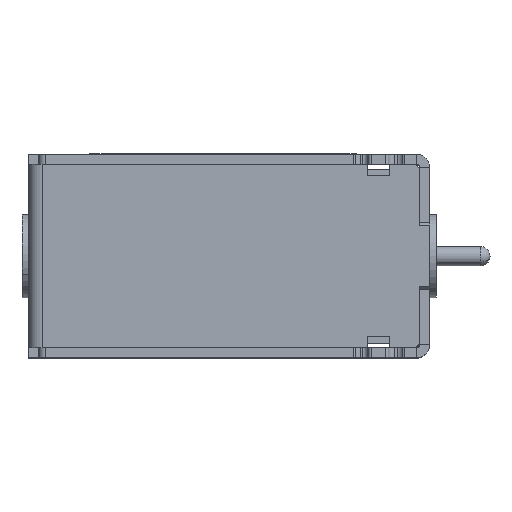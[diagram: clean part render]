
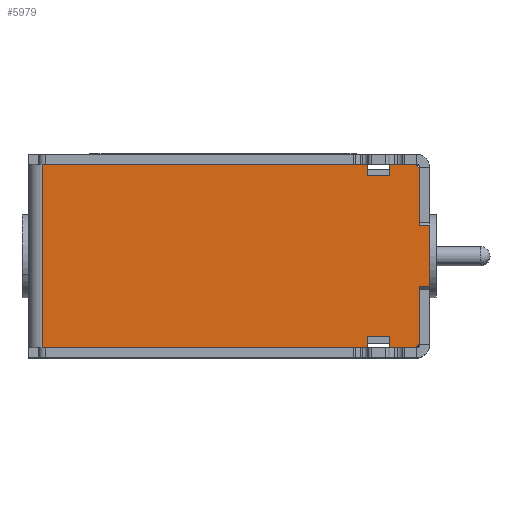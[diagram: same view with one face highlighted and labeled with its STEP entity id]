
A CAD part, top view. The second image highlights one B-rep face of the part: STEP entity #5979.
In plain terms, the highlighted planar face has unit normal (0, 0, 1).
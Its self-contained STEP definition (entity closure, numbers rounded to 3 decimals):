
#72 = CARTESIAN_POINT ( 'NONE',  ( 11.686, -12.822, 22. ) ) ;
#150 = LINE ( 'NONE', #2332, #16490 ) ;
#565 = CARTESIAN_POINT ( 'NONE',  ( 18.331, 3.801, 22. ) ) ;
#880 = CARTESIAN_POINT ( 'NONE',  ( -37.514, -14.322, 22. ) ) ;
#1215 = LINE ( 'NONE', #17838, #13805 ) ;
#1264 = ORIENTED_EDGE ( 'NONE', *, *, #12766, .T. ) ;
#1666 = EDGE_CURVE ( 'NONE', #15116, #6101, #7561, .T. ) ;
#1774 = DIRECTION ( 'NONE',  ( 1., 0., 0. ) ) ;
#1841 = CARTESIAN_POINT ( 'NONE',  ( 14.986, 12.678, 22. ) ) ;
#2111 = CARTESIAN_POINT ( 'NONE',  ( 11.836, -12.822, 22. ) ) ;
#2121 = DIRECTION ( 'NONE',  ( 1., 0., 0. ) ) ;
#2332 = CARTESIAN_POINT ( 'NONE',  ( 19.486, -14.572, 22. ) ) ;
#2341 = EDGE_CURVE ( 'NONE', #7412, #8613, #5250, .T. ) ;
#2617 = CARTESIAN_POINT ( 'NONE',  ( 14.986, 11.178, 22. ) ) ;
#2742 = ORIENTED_EDGE ( 'NONE', *, *, #7594, .F. ) ;
#2850 = EDGE_CURVE ( 'NONE', #13320, #11993, #9970, .T. ) ;
#3185 = CARTESIAN_POINT ( 'NONE',  ( 20.986, -5.444, 22. ) ) ;
#3368 = VERTEX_POINT ( 'NONE', #72 ) ;
#3383 = ORIENTED_EDGE ( 'NONE', *, *, #13447, .F. ) ;
#3822 = CARTESIAN_POINT ( 'NONE',  ( 18.486, 11.928, 22. ) ) ;
#3845 = VECTOR ( 'NONE', #12563, 1000. ) ;
#3865 = CARTESIAN_POINT ( 'NONE',  ( -37.014, 12.928, 22. ) ) ;
#4223 = CARTESIAN_POINT ( 'NONE',  ( 18.486, -14.572, 22. ) ) ;
#4405 = EDGE_CURVE ( 'NONE', #3368, #12063, #9670, .T. ) ;
#4444 = VECTOR ( 'NONE', #7482, 1000. ) ;
#4631 = LINE ( 'NONE', #15924, #8916 ) ;
#4651 = VECTOR ( 'NONE', #7955, 1000. ) ;
#4738 = CARTESIAN_POINT ( 'NONE',  ( 14.986, -12.822, 22. ) ) ;
#4763 = LINE ( 'NONE', #14163, #14204 ) ;
#4954 = FACE_OUTER_BOUND ( 'NONE', #17708, .T. ) ;
#4967 = CARTESIAN_POINT ( 'NONE',  ( 14.986, 12.928, 22. ) ) ;
#5250 = LINE ( 'NONE', #565, #8255 ) ;
#5324 = ORIENTED_EDGE ( 'NONE', *, *, #4405, .F. ) ;
#5404 = VERTEX_POINT ( 'NONE', #2617 ) ;
#5473 = CARTESIAN_POINT ( 'NONE',  ( 19.486, 12.678, 22. ) ) ;
#5666 = VERTEX_POINT ( 'NONE', #13039 ) ;
#5913 = DIRECTION ( 'NONE',  ( 0., -1., 0. ) ) ;
#5979 = ADVANCED_FACE ( 'NONE', ( #4954 ), #17828, .T. ) ;
#6009 = CARTESIAN_POINT ( 'NONE',  ( 19.486, 3.801, 22. ) ) ;
#6101 = VERTEX_POINT ( 'NONE', #10625 ) ;
#6107 = LINE ( 'NONE', #5473, #4651 ) ;
#6138 = CARTESIAN_POINT ( 'NONE',  ( 14.986, 12.928, 22. ) ) ;
#6482 = VECTOR ( 'NONE', #7178, 1000. ) ;
#6747 = EDGE_CURVE ( 'NONE', #15116, #9154, #11639, .T. ) ;
#6815 = ORIENTED_EDGE ( 'NONE', *, *, #15534, .F. ) ;
#6951 = ORIENTED_EDGE ( 'NONE', *, *, #12082, .F. ) ;
#6953 = EDGE_CURVE ( 'NONE', #8613, #10461, #7904, .T. ) ;
#7011 = VERTEX_POINT ( 'NONE', #12545 ) ;
#7061 = DIRECTION ( 'NONE',  ( -1., 0., 0. ) ) ;
#7178 = DIRECTION ( 'NONE',  ( 0., 1., 0. ) ) ;
#7198 = ORIENTED_EDGE ( 'NONE', *, *, #17822, .F. ) ;
#7267 = DIRECTION ( 'NONE',  ( -1., 0., 0. ) ) ;
#7412 = VERTEX_POINT ( 'NONE', #6009 ) ;
#7454 = CARTESIAN_POINT ( 'NONE',  ( 11.686, -14.322, 22. ) ) ;
#7457 = DIRECTION ( 'NONE',  ( 0., 1., 0. ) ) ;
#7482 = DIRECTION ( 'NONE',  ( 0., -1., 0. ) ) ;
#7561 = LINE ( 'NONE', #15744, #10620 ) ;
#7594 = EDGE_CURVE ( 'NONE', #13320, #5666, #150, .T. ) ;
#7824 = ORIENTED_EDGE ( 'NONE', *, *, #9450, .T. ) ;
#7848 = VERTEX_POINT ( 'NONE', #12039 ) ;
#7904 = LINE ( 'NONE', #18910, #18528 ) ;
#7955 = DIRECTION ( 'NONE',  ( 0., -1., 0. ) ) ;
#8059 = DIRECTION ( 'NONE',  ( 1., 0., 0. ) ) ;
#8255 = VECTOR ( 'NONE', #8059, 1000. ) ;
#8396 = VERTEX_POINT ( 'NONE', #15753 ) ;
#8567 = AXIS2_PLACEMENT_3D ( 'NONE', #3822, #15774, #15153 ) ;
#8613 = VERTEX_POINT ( 'NONE', #18302 ) ;
#8916 = VECTOR ( 'NONE', #15604, 1000. ) ;
#9006 = LINE ( 'NONE', #2111, #18162 ) ;
#9020 = DIRECTION ( 'NONE',  ( 0., 0., 1. ) ) ;
#9154 = VERTEX_POINT ( 'NONE', #16550 ) ;
#9450 = EDGE_CURVE ( 'NONE', #7011, #10461, #4631, .T. ) ;
#9641 = CARTESIAN_POINT ( 'NONE',  ( 19.486, -13.572, 22. ) ) ;
#9670 = LINE ( 'NONE', #7454, #12382 ) ;
#9712 = EDGE_CURVE ( 'NONE', #12063, #6101, #4763, .T. ) ;
#9804 = EDGE_CURVE ( 'NONE', #8396, #5404, #10097, .T. ) ;
#9878 = VECTOR ( 'NONE', #10112, 1000. ) ;
#9970 = CIRCLE ( 'NONE', #11962, 1. ) ;
#10097 = LINE ( 'NONE', #11934, #3845 ) ;
#10112 = DIRECTION ( 'NONE',  ( 1., 0., 0. ) ) ;
#10431 = ORIENTED_EDGE ( 'NONE', *, *, #6953, .F. ) ;
#10461 = VERTEX_POINT ( 'NONE', #3185 ) ;
#10620 = VECTOR ( 'NONE', #13514, 1000. ) ;
#10625 = CARTESIAN_POINT ( 'NONE',  ( -37.014, -14.572, 22. ) ) ;
#10662 = ORIENTED_EDGE ( 'NONE', *, *, #16586, .F. ) ;
#10822 = DIRECTION ( 'NONE',  ( 0., -1., 0. ) ) ;
#10996 = ORIENTED_EDGE ( 'NONE', *, *, #1666, .T. ) ;
#11244 = ORIENTED_EDGE ( 'NONE', *, *, #14598, .F. ) ;
#11266 = AXIS2_PLACEMENT_3D ( 'NONE', #880, #9020, #2121 ) ;
#11639 = LINE ( 'NONE', #13553, #9878 ) ;
#11797 = VERTEX_POINT ( 'NONE', #6138 ) ;
#11798 = ORIENTED_EDGE ( 'NONE', *, *, #9712, .F. ) ;
#11934 = CARTESIAN_POINT ( 'NONE',  ( 11.836, 11.178, 22. ) ) ;
#11962 = AXIS2_PLACEMENT_3D ( 'NONE', #16540, #13035, #1774 ) ;
#11993 = VERTEX_POINT ( 'NONE', #9641 ) ;
#12039 = CARTESIAN_POINT ( 'NONE',  ( 18.486, 12.928, 22. ) ) ;
#12063 = VERTEX_POINT ( 'NONE', #18760 ) ;
#12082 = EDGE_CURVE ( 'NONE', #14329, #3368, #9006, .T. ) ;
#12108 = DIRECTION ( 'NONE',  ( -1., 0., 0. ) ) ;
#12382 = VECTOR ( 'NONE', #5913, 1000. ) ;
#12385 = EDGE_CURVE ( 'NONE', #5404, #11797, #19404, .T. ) ;
#12545 = CARTESIAN_POINT ( 'NONE',  ( 19.486, -5.444, 22. ) ) ;
#12563 = DIRECTION ( 'NONE',  ( 1., 0., 0. ) ) ;
#12578 = ORIENTED_EDGE ( 'NONE', *, *, #2850, .T. ) ;
#12766 = EDGE_CURVE ( 'NONE', #18412, #7848, #16525, .T. ) ;
#12767 = LINE ( 'NONE', #4967, #19357 ) ;
#13035 = DIRECTION ( 'NONE',  ( 0., 0., 1. ) ) ;
#13039 = CARTESIAN_POINT ( 'NONE',  ( 14.986, -14.572, 22. ) ) ;
#13153 = CARTESIAN_POINT ( 'NONE',  ( 19.486, -14.322, 22. ) ) ;
#13320 = VERTEX_POINT ( 'NONE', #4223 ) ;
#13404 = ORIENTED_EDGE ( 'NONE', *, *, #6747, .F. ) ;
#13447 = EDGE_CURVE ( 'NONE', #11797, #7848, #12767, .T. ) ;
#13514 = DIRECTION ( 'NONE',  ( 0., -1., 0. ) ) ;
#13553 = CARTESIAN_POINT ( 'NONE',  ( -37.014, 12.928, 22. ) ) ;
#13607 = CARTESIAN_POINT ( 'NONE',  ( 19.486, 11.928, 22. ) ) ;
#13652 = LINE ( 'NONE', #14295, #16289 ) ;
#13805 = VECTOR ( 'NONE', #7457, 1000. ) ;
#14163 = CARTESIAN_POINT ( 'NONE',  ( 11.686, -14.572, 22. ) ) ;
#14204 = VECTOR ( 'NONE', #7267, 1000. ) ;
#14295 = CARTESIAN_POINT ( 'NONE',  ( 11.686, 12.678, 22. ) ) ;
#14329 = VERTEX_POINT ( 'NONE', #4738 ) ;
#14528 = ORIENTED_EDGE ( 'NONE', *, *, #9804, .F. ) ;
#14598 = EDGE_CURVE ( 'NONE', #9154, #8396, #13652, .T. ) ;
#15116 = VERTEX_POINT ( 'NONE', #3865 ) ;
#15133 = DIRECTION ( 'NONE',  ( 0., -1., 0. ) ) ;
#15153 = DIRECTION ( 'NONE',  ( 1., 0., 0. ) ) ;
#15466 = ORIENTED_EDGE ( 'NONE', *, *, #2341, .F. ) ;
#15534 = EDGE_CURVE ( 'NONE', #7011, #11993, #17593, .T. ) ;
#15604 = DIRECTION ( 'NONE',  ( 1., 0., 0. ) ) ;
#15646 = DIRECTION ( 'NONE',  ( 1., 0., 0. ) ) ;
#15744 = CARTESIAN_POINT ( 'NONE',  ( -37.014, -14.322, 22. ) ) ;
#15753 = CARTESIAN_POINT ( 'NONE',  ( 11.686, 11.178, 22. ) ) ;
#15774 = DIRECTION ( 'NONE',  ( 0., 0., 1. ) ) ;
#15924 = CARTESIAN_POINT ( 'NONE',  ( 18.331, -5.444, 22. ) ) ;
#15950 = ORIENTED_EDGE ( 'NONE', *, *, #12385, .F. ) ;
#16289 = VECTOR ( 'NONE', #10822, 1000. ) ;
#16490 = VECTOR ( 'NONE', #7061, 1000. ) ;
#16525 = CIRCLE ( 'NONE', #8567, 1. ) ;
#16540 = CARTESIAN_POINT ( 'NONE',  ( 18.486, -13.572, 22. ) ) ;
#16550 = CARTESIAN_POINT ( 'NONE',  ( 11.686, 12.928, 22. ) ) ;
#16586 = EDGE_CURVE ( 'NONE', #18412, #7412, #6107, .T. ) ;
#17593 = LINE ( 'NONE', #13153, #4444 ) ;
#17708 = EDGE_LOOP ( 'NONE', ( #2742, #12578, #6815, #7824, #10431, #15466, #10662, #1264, #3383, #15950, #14528, #11244, #13404, #10996, #11798, #5324, #6951, #7198 ) ) ;
#17822 = EDGE_CURVE ( 'NONE', #5666, #14329, #1215, .T. ) ;
#17828 = PLANE ( 'NONE',  #11266 ) ;
#17838 = CARTESIAN_POINT ( 'NONE',  ( 14.986, -14.322, 22. ) ) ;
#18162 = VECTOR ( 'NONE', #12108, 1000. ) ;
#18302 = CARTESIAN_POINT ( 'NONE',  ( 20.986, 3.801, 22. ) ) ;
#18412 = VERTEX_POINT ( 'NONE', #13607 ) ;
#18528 = VECTOR ( 'NONE', #15133, 1000. ) ;
#18760 = CARTESIAN_POINT ( 'NONE',  ( 11.686, -14.572, 22. ) ) ;
#18910 = CARTESIAN_POINT ( 'NONE',  ( 20.986, -14.322, 22. ) ) ;
#19357 = VECTOR ( 'NONE', #15646, 1000. ) ;
#19404 = LINE ( 'NONE', #1841, #6482 ) ;
